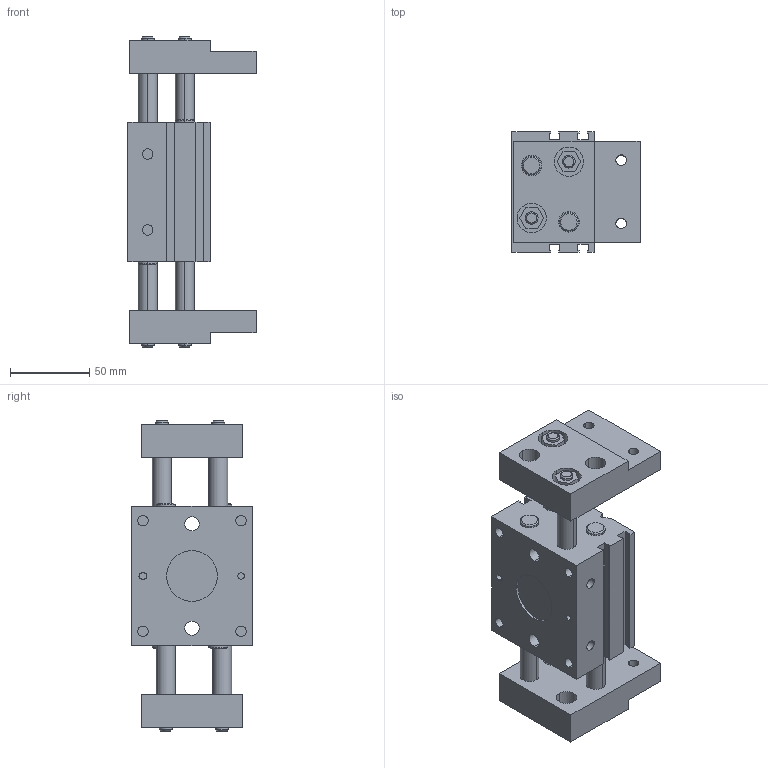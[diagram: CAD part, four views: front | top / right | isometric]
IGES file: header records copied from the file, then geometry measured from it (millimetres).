
Global section: file name: No Iges File Name specified; native system: AutoDesk Inventor R11.0; preprocessor: AutoDesk Inventor Iges Exporter R11.0; author: No Author specified; organization: No Organization specified; date: 20070224.105111; units: millimetre
Bounding box: 81 x 76 x 196 mm (x, y, z)
Volume: 509837.2 mm3; surface area: 109601.5 mm2
Topology: 3 solids, 3 shells, 203 faces, 494 edges, 324 vertices
Faces by surface type: plane 101, bspline 56, cylinder 16, cone 16, revolution 14
